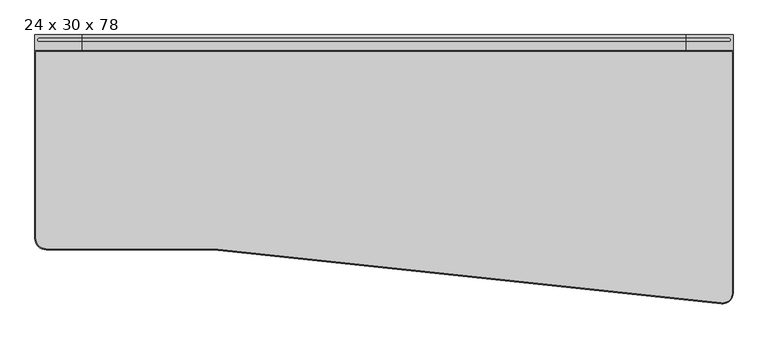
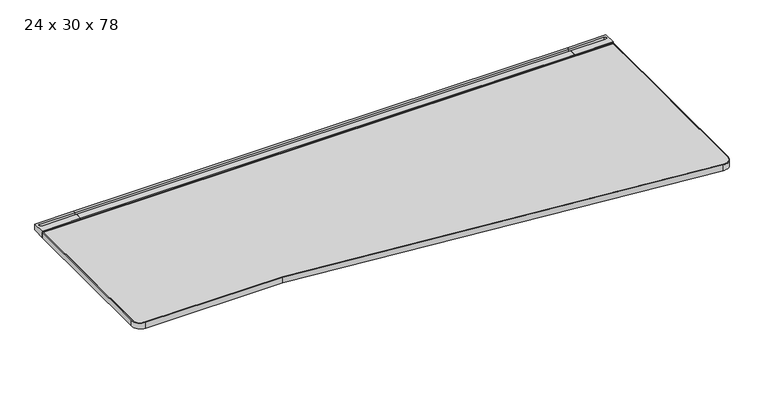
"""IFC4 building model written with IfcOpenShell, lengths in millimetres: furniture geometry, Steelcase - C Scape - Desking - Right Hand Transition : 24 x 30 x 78."""

from ifc_helpers import new_model, si_unit, point, frame, frame_2d, origin, place, context, project, spatial, polyline, circle_curve, trimmed, segment, composite_curve, outline, extrude, faceted_brep, source, transform, mapped, element, save
from ifc_brep_helpers import plane_surface, cylinder_surface, revolved_surface, advanced_brep


def furniture_24_x_30_x_78_c33e6ba3(model_context):
    return source(origin(), model_context, "Body", "SolidModel", [
        advanced_brep(
        [(1846.5927124, -45.3135132, 703.3768), (1846.5927124, -45.3135132, 722.4268341), (1846.5927124, -42.7750923, 722.4268341), (1846.5927124, -42.7750923, 725.932), (1846.5927124, -19.3290527, 725.932), (1846.5927124, -19.3290527, 713.486), (1846.5927124, -8.5111084, 713.486), (1846.5927124, -8.5111084, 725.932), (1846.5927124, 0.0, 725.932), (1846.5927124, 0.0, 705.1038636), (1846.5927124, -3.2278472, 705.1038636), (1846.5927124, -4.0331902, 703.3768), (1979.6125, -45.3135132, 703.3768), (1979.6125, -4.0331902, 703.3768), (1979.6125, -3.2278472, 705.1038636), (1979.6125, 0.0, 705.1038636), (1979.6125, 0.0, 725.932), (1979.6125, -42.7750923, 725.932), (1979.6125, -42.7750923, 722.4268341), (1979.6125, -45.3135132, 722.4268341), (1967.8504272, -8.5111084, 725.932), (1967.8504272, -19.3290527, 725.932), (1967.8504272, -19.3290527, 713.486), (1967.8504272, -8.5111084, 713.486)],
        [
            (0, 1),
            (1, 2),
            (2, 3),
            (3, 4),
            (4, 5),
            (5, 6),
            (6, 7),
            (7, 8),
            (8, 9),
            (9, 10),
            (10, 11),
            (11, 0),
            (12, 13),
            (13, 14),
            (14, 15),
            (15, 16),
            (16, 17),
            (17, 18),
            (18, 19),
            (19, 12),
            (11, 13),
            (12, 0),
            (10, 14),
            (9, 15),
            (8, 16),
            (7, 20),
            (20, 21, circle_curve(frame((1967.8504272, -13.9200806, 725.932), z_axis=(0.0, 0.0, -1.0), x_axis=(-1.0, 0.0, 0.0)), 5.4089722)),
            (21, 4),
            (3, 17),
            (2, 18),
            (1, 19),
            (5, 22),
            (22, 23, circle_curve(frame((1967.8504272, -13.9200806, 713.486), z_axis=(0.0, 0.0, 1.0), x_axis=(-1.0, 0.0, 0.0)), 5.4089722)),
            (23, 6),
            (23, 20),
            (22, 21),
        ],
        [
            plane_surface(frame((1846.5927124, -45.3135132, 703.3768), z_axis=(-1.0, 0.0, 0.0), x_axis=(0.0, 1.0, 0.0))),
            plane_surface(frame((1979.6125, -45.3135132, 703.3768), z_axis=(1.0, 0.0, 0.0), x_axis=(0.0, -1.0, 0.0))),
            plane_surface(frame((1846.5927124, -45.3135132, 703.3768), z_axis=(0.0, 0.0, -1.0), x_axis=(1.0, 0.0, 0.0))),
            plane_surface(frame((1846.5927124, -4.0331902, 703.3768), z_axis=(0.0, 0.9063077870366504, -0.4226182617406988), x_axis=(1.0, 0.0, 0.0))),
            plane_surface(frame((1846.5927124, -3.2278472, 705.1038636), z_axis=(0.0, 0.0, -1.0), x_axis=(1.0, 0.0, 0.0))),
            plane_surface(frame((1846.5927124, 0.0, 705.1038636), z_axis=(0.0, 1.0, 0.0), x_axis=(1.0, 0.0, 0.0))),
            plane_surface(frame((1846.5927124, 0.0, 725.932), z_axis=(0.0, 0.0, 1.0), x_axis=(1.0, 0.0, 0.0))),
            plane_surface(frame((1846.5927124, -42.7750923, 725.932), z_axis=(0.0, -1.0, 0.0), x_axis=(1.0, 0.0, 0.0))),
            plane_surface(frame((1846.5927124, -42.7750923, 722.4268341), z_axis=(0.0, 0.0, 1.0), x_axis=(1.0, 0.0, 0.0))),
            plane_surface(frame((1846.5927124, -45.3135132, 722.4268341), z_axis=(0.0, -1.0, 0.0), x_axis=(1.0, 0.0, 0.0))),
            plane_surface(frame((1967.8504272, -8.5111084, 713.486), z_axis=(0.0, 0.0, 1.0), x_axis=(-1.0, 0.0, 0.0))),
            plane_surface(frame((1846.5927124, -8.5111084, 731.2180541), z_axis=(0.0, -1.0, 0.0), x_axis=(0.0, 0.0, -1.0))),
            revolved_surface(polyline([(1962.441455, -13.9200806, 725.932), (1962.441455, -13.9200806, 713.486)]), (1967.8504272, -13.9200806, 713.486), (0.0, 0.0, 1.0)),
            plane_surface(frame((1967.8504272, -19.3290527, 731.2180541), z_axis=(0.0, 1.0, 0.0), x_axis=(0.0, 0.0, -1.0))),
        ],
        [
            (0, [[1, 2, 3, 4, 5, 6, 7, 8, 9, 10, 11, 12]]),
            (1, [[13, 14, 15, 16, 17, 18, 19, 20]]),
            (2, [[21, -13, 22, -12]]),
            (3, [[23, -14, -21, -11]]),
            (4, [[24, -15, -23, -10]]),
            (5, [[25, -16, -24, -9]]),
            (6, [[-25, -8, 26, 27, 28, -4, 29, -17]]),
            (7, [[30, -18, -29, -3]]),
            (8, [[31, -19, -30, -2]]),
            (9, [[-22, -20, -31, -1]]),
            (10, [[-6, 32, 33, 34]]),
            (11, [[35, -26, -7, -34]]),
            (12, [[36, -27, -35, -33]]),
            (13, [[-5, -28, -36, -32]]),
        ],
    ),
        faceted_brep([(1960.5617368, -565.0752923, 700.7093833), (1960.5617368, -565.0752923, 703.3768), (1846.5927124, -565.0752923, 703.3768), (1846.5927124, -565.0752923, 679.3263935), (1862.2268699, -565.0752923, 679.3263935), (1864.8474121, -565.0752923, 693.4200291), (1946.2866272, -565.0752923, 693.4200291), (1960.5617368, -4.0331902, 700.7093833), (1946.2866272, -4.0331902, 693.4200291), (1864.8474121, -4.0331902, 693.4200291), (1852.9411653, -4.0331902, 629.3866), (1846.5927124, -4.0331902, 629.3866), (1846.5927124, -4.0331902, 703.3768), (1960.5617368, -4.0331902, 703.3768), (1860.0615949, -376.5599397, 667.6812472), (1852.9411653, -364.1172546, 629.3866), (1846.5927124, -364.1172546, 629.3866), (1846.5927124, -376.5599397, 667.6812472)], [[[0, 1, 2, 3, 4, 5, 6]], [[7, 8, 9, 10, 11, 12, 13]], [[6, 8, 7, 0]], [[5, 9, 8, 6]], [[9, 5, 4, 14, 15, 10]], [[10, 15, 16, 11]], [[11, 16, 17, 3, 2, 12]], [[1, 13, 12, 2]], [[0, 7, 13, 1]], [[14, 4, 3, 17]], [[17, 16, 15, 14]]]),
        extrude(outline(composite_curve([segment(polyline([(-293.5216187, 657.3775839), (-559.0022133, 680.1371551)]), True, "CONTINUOUS"), segment(trimmed(circle_curve(frame_2d((-558.7581271, 682.9843154)), 2.8576039), [point((-559.0022133, 680.1371551))], [point((-561.5383043, 682.3236226))], False, "CARTESIAN"), True, "CONTINUOUS"), segment(polyline([(-561.5383043, 682.3236226), (-566.0887542, 701.4717905), (-557.8334441, 701.4717905), (-557.8334441, 703.3768), (-442.6683806, 703.3768), (-442.6683806, 696.3917953), (-318.2108611, 696.3917953), (-318.2108611, 703.3768), (-293.5216187, 703.3768), (-293.5216187, 657.3775839)]), True, "CONTINUOUS")], self_intersect=False)), frame((954.024, 0.0, 0.0), z_axis=(1.0, 0.0, 0.0), x_axis=(0.0, 1.0, 0.0)), (0.0, 0.0, 1.0), 73.152),
        advanced_brep(
        [(134.6072876, -45.3135132, 703.3768), (134.6072876, -4.0331902, 703.3768), (134.6072876, -3.2278472, 705.1038636), (134.6072876, 0.0, 705.1038636), (134.6072876, 0.0, 725.932), (134.6072876, -8.5111084, 725.932), (134.6072876, -8.5111084, 713.486), (134.6072876, -19.3290527, 713.486), (134.6072876, -19.3290527, 725.932), (134.6072876, -42.7750923, 725.932), (134.6072876, -42.7750923, 722.4268341), (134.6072876, -45.3135132, 722.4268341), (1.5875, -45.3135132, 703.3768), (1.5875, -45.3135132, 722.4268341), (1.5875, -42.7750923, 722.4268341), (1.5875, -42.7750923, 725.932), (1.5875, 0.0, 725.932), (1.5875, 0.0, 705.1038636), (1.5875, -3.2278472, 705.1038636), (1.5875, -4.0331902, 703.3768), (13.3495728, -19.3290527, 725.932), (13.3495728, -8.5111084, 725.932), (13.3495728, -8.5111084, 713.486), (13.3495728, -19.3290527, 713.486)],
        [
            (0, 1),
            (1, 2),
            (2, 3),
            (3, 4),
            (4, 5),
            (5, 6),
            (6, 7),
            (7, 8),
            (8, 9),
            (9, 10),
            (10, 11),
            (11, 0),
            (12, 13),
            (13, 14),
            (14, 15),
            (15, 16),
            (16, 17),
            (17, 18),
            (18, 19),
            (19, 12),
            (0, 12),
            (19, 1),
            (18, 2),
            (17, 3),
            (16, 4),
            (15, 9),
            (8, 20),
            (20, 21, circle_curve(frame((13.3495728, -13.9200806, 725.932), z_axis=(0.0, 0.0, -1.0), x_axis=(1.0, 0.0, 0.0)), 5.4089722)),
            (21, 5),
            (14, 10),
            (13, 11),
            (6, 22),
            (22, 23, circle_curve(frame((13.3495728, -13.9200806, 713.486), z_axis=(0.0, 0.0, 1.0), x_axis=(1.0, 0.0, 0.0)), 5.4089722)),
            (23, 7),
            (21, 22),
            (20, 23),
        ],
        [
            plane_surface(frame((134.6072876, -45.3135132, 703.3768), z_axis=(1.0, 0.0, 0.0), x_axis=(0.0, 1.0, 0.0))),
            plane_surface(frame((1.5875, -45.3135132, 703.3768), z_axis=(-1.0, 0.0, 0.0), x_axis=(0.0, -1.0, 0.0))),
            plane_surface(frame((134.6072876, -45.3135132, 703.3768), z_axis=(0.0, 0.0, -1.0), x_axis=(-1.0, 0.0, 0.0))),
            plane_surface(frame((134.6072876, -4.0331902, 703.3768), z_axis=(0.0, 0.9063077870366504, -0.4226182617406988), x_axis=(-1.0, 0.0, 0.0))),
            plane_surface(frame((134.6072876, -3.2278472, 705.1038636), z_axis=(0.0, 0.0, -1.0), x_axis=(-1.0, 0.0, 0.0))),
            plane_surface(frame((134.6072876, 0.0, 705.1038636), z_axis=(0.0, 1.0, 0.0), x_axis=(-1.0, 0.0, 0.0))),
            plane_surface(frame((134.6072876, 0.0, 725.932), z_axis=(0.0, 0.0, 1.0), x_axis=(-1.0, 0.0, 0.0))),
            plane_surface(frame((134.6072876, -42.7750923, 725.932), z_axis=(0.0, -1.0, 0.0), x_axis=(-1.0, 0.0, 0.0))),
            plane_surface(frame((134.6072876, -42.7750923, 722.4268341), z_axis=(0.0, 0.0, 1.0), x_axis=(-1.0, 0.0, 0.0))),
            plane_surface(frame((134.6072876, -45.3135132, 722.4268341), z_axis=(0.0, -1.0, 0.0), x_axis=(-1.0, 0.0, 0.0))),
            plane_surface(frame((13.3495728, -8.5111084, 713.486), z_axis=(0.0, 0.0, 1.0), x_axis=(1.0, 0.0, 0.0))),
            plane_surface(frame((134.6072876, -8.5111084, 731.2180541), z_axis=(0.0, -1.0, 0.0), x_axis=(0.0, 0.0, -1.0))),
            revolved_surface(polyline([(18.758545, -13.9200806, 725.932), (18.758545, -13.9200806, 713.486)]), (13.3495728, -13.9200806, 713.486), (0.0, 0.0, 1.0)),
            plane_surface(frame((13.3495728, -19.3290527, 731.2180541), z_axis=(0.0, 1.0, 0.0), x_axis=(0.0, 0.0, -1.0))),
        ],
        [
            (0, [[1, 2, 3, 4, 5, 6, 7, 8, 9, 10, 11, 12]]),
            (1, [[13, 14, 15, 16, 17, 18, 19, 20]]),
            (2, [[-1, 21, -20, 22]]),
            (3, [[-2, -22, -19, 23]]),
            (4, [[-3, -23, -18, 24]]),
            (5, [[-4, -24, -17, 25]]),
            (6, [[-16, 26, -9, 27, 28, 29, -5, -25]]),
            (7, [[-10, -26, -15, 30]]),
            (8, [[-11, -30, -14, 31]]),
            (9, [[-12, -31, -13, -21]]),
            (10, [[32, 33, 34, -7]]),
            (11, [[-32, -6, -29, 35]]),
            (12, [[-33, -35, -28, 36]]),
            (13, [[-34, -36, -27, -8]]),
        ],
    ),
        faceted_brep([(20.6382632, -565.0752923, 700.7093833), (34.9133728, -565.0752923, 693.4200291), (116.3525879, -565.0752923, 693.4200291), (118.9731301, -565.0752923, 679.3263935), (134.6072876, -565.0752923, 679.3263935), (134.6072876, -565.0752923, 703.3768), (20.6382632, -565.0752923, 703.3768), (20.6382632, -4.0331902, 700.7093833), (20.6382632, -4.0331902, 703.3768), (134.6072876, -4.0331902, 703.3768), (134.6072876, -4.0331902, 629.3866), (128.2588347, -4.0331902, 629.3866), (116.3525879, -4.0331902, 693.4200291), (34.9133728, -4.0331902, 693.4200291), (128.2588347, -364.1172546, 629.3866), (121.1384051, -376.5599397, 667.6812472), (134.6072876, -364.1172546, 629.3866), (134.6072876, -376.5599397, 667.6812472)], [[[0, 1, 2, 3, 4, 5, 6]], [[7, 8, 9, 10, 11, 12, 13]], [[1, 0, 7, 13]], [[2, 1, 13, 12]], [[12, 11, 14, 15, 3, 2]], [[11, 10, 16, 14]], [[10, 9, 5, 4, 17, 16]], [[6, 5, 9, 8]], [[0, 6, 8, 7]], [[15, 17, 4, 3]], [[17, 15, 14, 16]]]),
        extrude(outline(polyline([(-8.5111084, 725.932), (0.0, 725.932), (0.0, 705.1038636), (-3.2278472, 705.1038636), (-4.0331902, 703.3768), (-45.3135132, 703.3768), (-45.3135132, 722.4268341), (-42.7750923, 722.4268341), (-42.7750923, 725.932), (-19.3290527, 725.932), (-19.3290527, 713.486), (-8.5111084, 713.486), (-8.5111084, 725.932)])), frame((134.6072876, 0.0, 0.0), z_axis=(1.0, 0.0, 0.0), x_axis=(0.0, 1.0, 0.0)), (0.0, 0.0, 1.0), 1711.9854248),
        extrude(outline(polyline([(134.6072876, -293.5216187), (134.6072876, -4.0331902), (1846.5927124, -4.0331902), (1846.5927124, -293.5216187), (134.6072876, -293.5216187)])), frame((0.0, 0.0, 629.3866), z_axis=(0.0, 0.0, 1.0), x_axis=(1.0, 0.0, 0.0)), (0.0, 0.0, 1.0), 73.9902),
        advanced_brep(
        [(4.6355, -48.3660689, 723.9), (4.6355, -577.85, 723.9), (33.3375, -606.5490234, 723.9), (508.0002405, -606.5490234, 723.9), (1947.2488255, -759.7737122, 723.9), (1976.5645, -734.677348, 723.9), (1976.5645, -48.3660689, 723.9), (4.6355, -48.3660689, 703.3768), (1976.5645, -48.3660689, 703.3768), (1976.5645, -734.677348, 703.3768), (1947.2488255, -759.7737122, 703.3768), (508.0002405, -606.5490234, 703.3768), (33.3375, -606.5490234, 703.3768), (4.6384766, -577.85, 703.3768)],
        [
            (0, 1),
            (1, 2, circle_curve(frame((33.3375, -577.85, 723.9), z_axis=(0.0, 0.0, 1.0), x_axis=(1.0, 0.0, 0.0)), 28.6990234)),
            (2, 3),
            (3, 4),
            (4, 5, circle_curve(frame((1951.1645, -734.677348, 723.9), z_axis=(0.0, 0.0, 1.0), x_axis=(1.0, 0.0, 0.0)), 25.4)),
            (5, 6),
            (6, 0),
            (7, 8),
            (8, 9),
            (9, 10, circle_curve(frame((1951.1645, -734.677348, 703.3768), z_axis=(0.0, 0.0, -1.0), x_axis=(1.0, 0.0, 0.0)), 25.4)),
            (10, 11),
            (11, 12),
            (12, 13, circle_curve(frame((33.3375, -577.85, 703.3768), z_axis=(0.0, 0.0, -1.0), x_axis=(1.0, 0.0, 0.0)), 28.6990234)),
            (13, 7),
            (0, 7),
            (13, 1),
            (12, 2),
            (11, 3),
            (10, 4),
            (9, 5),
            (8, 6),
        ],
        [
            plane_surface(frame((4.6355, -48.3660689, 723.9), z_axis=(0.0, 0.0, 1.0), x_axis=(0.0, -1.0, 0.0))),
            plane_surface(frame((4.6355, -48.3660689, 703.3768), z_axis=(0.0, 0.0, -1.0), x_axis=(0.0, 1.0, 0.0))),
            plane_surface(frame((4.6355, -48.3660689, 723.9), z_axis=(-1.0, 0.0, 0.0), x_axis=(0.0, 0.0, -1.0))),
            cylinder_surface(frame((33.3375, -577.85, 703.3768), z_axis=(0.0, 0.0, 1.0), x_axis=(1.0, 0.0, 0.0)), 28.6990234),
            plane_surface(frame((33.3375, -606.5490234, 723.9), z_axis=(0.0, -1.0, 0.0), x_axis=(0.0, 0.0, -1.0))),
            plane_surface(frame((508.0002405, -606.5490234, 723.9), z_axis=(-0.10586334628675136, -0.9943806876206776, 0.0), x_axis=(0.0, 0.0, -1.0))),
            cylinder_surface(frame((1951.1645, -734.677348, 703.3768), z_axis=(0.0, 0.0, 1.0), x_axis=(1.0, 0.0, 0.0)), 25.4),
            plane_surface(frame((1976.5645, -734.677348, 723.9), z_axis=(1.0, 0.0, 0.0), x_axis=(0.0, 0.0, -1.0))),
            plane_surface(frame((1976.5645, -48.3660689, 723.9), z_axis=(0.0, 1.0, 0.0), x_axis=(0.0, 0.0, -1.0))),
        ],
        [
            (0, [[1, 2, 3, 4, 5, 6, 7]]),
            (1, [[8, 9, 10, 11, 12, 13, 14]]),
            (2, [[-1, 15, -14, 16]]),
            (3, [[-2, -16, -13, 17]]),
            (4, [[-3, -17, -12, 18]]),
            (5, [[-4, -18, -11, 19]]),
            (6, [[-5, -19, -10, 20]]),
            (7, [[-6, -20, -9, 21]]),
            (8, [[-7, -21, -8, -15]]),
        ],
    ),
        advanced_brep(
        [(1979.6125, -45.3150923, 703.3768), (1979.6125, -45.3150923, 723.9), (1979.6125, -733.2875177, 723.9), (1979.6125, -733.2875177, 703.3768), (1976.5615234, -48.3660689, 723.9), (1976.5615234, -48.3660689, 703.3768), (1976.5615234, -733.2875177, 703.3768), (1976.5615234, -733.2875177, 723.9), (1945.4391868, -762.5423763, 703.3768), (1945.4391868, -762.5423763, 723.9), (1945.9095266, -759.5278717, 723.9), (1945.9095266, -759.5278717, 703.3768), (508.0, -609.6, 723.9), (1.5875, -45.3150923, 723.9), (1.5875, -577.85, 723.9), (33.3375, -609.6, 723.9), (508.1618539, -606.5490234, 723.9), (33.3375, -606.5490234, 723.9), (4.6384766, -577.85, 723.9), (4.6384766, -48.3660689, 723.9), (508.0, -609.6, 703.3768), (33.3375, -609.6, 703.3768), (1.5875, -577.85, 703.3768), (1.5875, -45.3150923, 703.3768), (508.1618539, -606.5490234, 703.3768), (4.6384766, -48.3660689, 703.3768), (4.6384766, -577.85, 703.3768), (33.3375, -606.5490234, 703.3768)],
        [
            (0, 1),
            (1, 2),
            (2, 3),
            (3, 0),
            (4, 5),
            (5, 6),
            (6, 7),
            (7, 4),
            (8, 3, circle_curve(frame((1950.0036927, -733.2875177, 703.3768), z_axis=(0.0, 0.0, 1.0), x_axis=(1.0, 0.0, 0.0)), 29.6088073)),
            (2, 9, circle_curve(frame((1950.0036927, -733.2875177, 723.9), z_axis=(0.0, 0.0, -1.0), x_axis=(1.0, 0.0, 0.0)), 29.6088073)),
            (9, 8),
            (10, 7, circle_curve(frame((1950.0036927, -733.2875177, 723.9), z_axis=(0.0, 0.0, 1.0), x_axis=(1.0, 0.0, 0.0)), 26.5578307)),
            (6, 11, circle_curve(frame((1950.0036927, -733.2875177, 703.3768), z_axis=(0.0, 0.0, -1.0), x_axis=(1.0, 0.0, 0.0)), 26.5578307)),
            (11, 10),
            (12, 9),
            (1, 13),
            (13, 14),
            (14, 15, circle_curve(frame((33.3375, -577.85, 723.9), z_axis=(0.0, 0.0, 1.0), x_axis=(0.0, -1.0, 0.0)), 31.75)),
            (15, 12),
            (10, 16),
            (16, 17),
            (17, 18, circle_curve(frame((33.3375, -577.85, 723.9), z_axis=(0.0, 0.0, -1.0), x_axis=(0.0, -1.0, 0.0)), 28.6990234)),
            (18, 19),
            (19, 4),
            (12, 20),
            (20, 8),
            (20, 21),
            (21, 22, circle_curve(frame((33.3375, -577.85, 703.3768), z_axis=(0.0, 0.0, -1.0), x_axis=(0.0, -1.0, 0.0)), 31.75)),
            (22, 23),
            (23, 0),
            (24, 11),
            (5, 25),
            (25, 26),
            (26, 27, circle_curve(frame((33.3375, -577.85, 703.3768), z_axis=(0.0, 0.0, 1.0), x_axis=(0.0, -1.0, 0.0)), 28.6990234)),
            (27, 24),
            (24, 16),
            (15, 21),
            (27, 17),
            (14, 22),
            (26, 18),
            (13, 23),
            (25, 19),
        ],
        [
            plane_surface(frame((1979.6125, -45.3150923, 723.9), z_axis=(1.0, 0.0, 0.0), x_axis=(0.0, -1.0, 0.0))),
            plane_surface(frame((1976.5615234, -48.3660689, 703.3768), z_axis=(-1.0, 0.0, 0.0), x_axis=(0.0, -1.0, 0.0))),
            cylinder_surface(frame((1950.0036927, -733.2875177, 0.0), z_axis=(0.0, 0.0, -1.0), x_axis=(1.0, 0.0, 0.0)), 29.6088073),
            revolved_surface(polyline([(1976.5615234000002, -733.2875177, 703.3768), (1976.5615234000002, -733.2875177, 723.9)]), (1950.0036927, -733.2875177, 0.0), (0.0, 0.0, -1.0)),
            plane_surface(frame((1945.9100866, -759.524282, 723.9), z_axis=(0.0, 0.0, 1.0), x_axis=(-0.9943872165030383, 0.10580200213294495, 0.0))),
            plane_surface(frame((1945.4391868, -762.5423763, 723.9), z_axis=(-0.10580200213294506, -0.9943872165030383, 0.0), x_axis=(-0.9943872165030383, 0.10580200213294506, 0.0))),
            plane_surface(frame((1945.4391868, -762.5423763, 703.3768), z_axis=(0.0, 0.0, -1.0000000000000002), x_axis=(-0.9943872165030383, 0.10580200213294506, 0.0))),
            plane_surface(frame((1945.9100866, -759.524282, 703.3768), z_axis=(0.105802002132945, 0.9943872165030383, 0.0), x_axis=(-0.9943872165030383, 0.105802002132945, 0.0))),
            plane_surface(frame((508.0, -609.6, 723.9), z_axis=(0.0, -1.0, 0.0), x_axis=(-1.0, 0.0, 0.0))),
            plane_surface(frame((508.1618539, -606.5490234, 703.3768), z_axis=(0.0, 1.0, 0.0), x_axis=(-1.0, 0.0, 0.0))),
            cylinder_surface(frame((33.3375, -577.85, 0.0), z_axis=(0.0, 0.0, -1.0), x_axis=(0.0, -1.0, 0.0)), 31.75),
            revolved_surface(polyline([(33.3375, -606.5490234, 703.3768), (33.3375, -606.5490234, 723.9)]), (33.3375, -577.85, 0.0), (0.0, 0.0, -1.0)),
            plane_surface(frame((1.5875, -577.85, 723.9), z_axis=(-1.0, 0.0, 0.0), x_axis=(0.0, 1.0, 0.0))),
            plane_surface(frame((4.6384766, -577.85, 703.3768), z_axis=(1.0, 0.0, 0.0), x_axis=(0.0, 1.0, 0.0))),
            plane_surface(frame((1.5875, -45.3150923, 723.9), z_axis=(0.0, 1.0, 0.0), x_axis=(1.0, 0.0, 0.0))),
            plane_surface(frame((4.6384766, -48.3660689, 703.3768), z_axis=(0.0, -1.0, 0.0), x_axis=(1.0, 0.0, 0.0))),
        ],
        [
            (0, [[1, 2, 3, 4]]),
            (1, [[5, 6, 7, 8]]),
            (2, [[9, -3, 10, 11]]),
            (3, [[12, -7, 13, 14]]),
            (4, [[15, -10, -2, 16, 17, 18, 19], [-8, -12, 20, 21, 22, 23, 24]]),
            (5, [[-11, -15, 25, 26]]),
            (6, [[-4, -9, -26, 27, 28, 29, 30], [31, -13, -6, 32, 33, 34, 35]]),
            (7, [[-14, -31, 36, -20]]),
            (8, [[-25, -19, 37, -27]]),
            (9, [[-36, -35, 38, -21]]),
            (10, [[-28, -37, -18, 39]]),
            (11, [[-22, -38, -34, 40]]),
            (12, [[-39, -17, 41, -29]]),
            (13, [[-40, -33, 42, -23]]),
            (14, [[-41, -16, -1, -30]]),
            (15, [[-42, -32, -5, -24]]),
        ],
    ),
    ])


if __name__ == "__main__":
    model = new_model("IFC4")
    model_context = context("Model", 3, world=origin())
    ifc_project = project(units=[si_unit("LENGTHUNIT", "METRE", prefix="MILLI")], contexts=[model_context])
    site = spatial("IfcSite", under=ifc_project)
    building = spatial("IfcBuilding", under=site)
    placement = place(None, origin())
    furniture_24_x_30_x_78_shape = furniture_24_x_30_x_78_c33e6ba3(model_context)
    element("IfcFurniture", 1, ObjectType="Steelcase - C Scape - Desking - Right Hand Transition : 24 x 30 x 78", at=placement, inside=building, context=model_context, shape_type="MappedRepresentation", body=[
        mapped(furniture_24_x_30_x_78_shape, transform((0.0, 0.0, 0.0), x_axis=(1.0, 0.0, 0.0), y_axis=(0.0, 1.0, 0.0), z_axis=(0.0, 0.0, 1.0))),
    ])
    save(model, "model.ifc")
